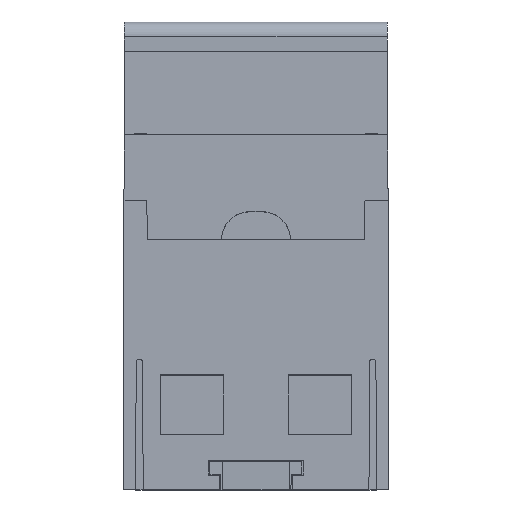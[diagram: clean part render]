
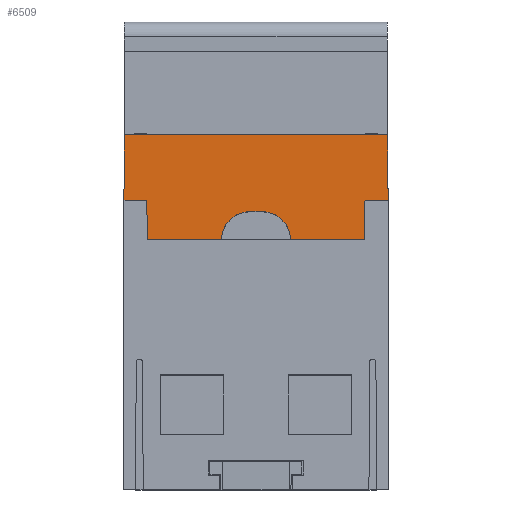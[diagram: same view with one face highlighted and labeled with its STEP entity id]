
A CAD part, front view. The second image highlights one B-rep face of the part: STEP entity #6509.
In plain terms, the highlighted planar face has unit normal (0, -1, 0.003).
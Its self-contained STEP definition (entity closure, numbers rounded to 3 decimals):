
#2090=CARTESIAN_POINT('',(22.595,3.296,33.704));
#2091=CARTESIAN_POINT('',(22.562,3.298,34.337));
#2092=CARTESIAN_POINT('',(22.245,3.301,35.336));
#2093=CARTESIAN_POINT('',(21.409,3.305,36.456));
#2094=CARTESIAN_POINT('',(20.248,3.307,37.234));
#2095=CARTESIAN_POINT('',(19.233,3.308,37.5));
#2096=CARTESIAN_POINT('',(18.6,3.308,37.5));
#2108=DIRECTION('',(-0.005,-0.003,-1.));
#2109=VECTOR('',#2108,5.298);
#2110=CARTESIAN_POINT('',(32.573,3.313,39.));
#2111=LINE('',#2110,#2109);
#2115=DIRECTION('',(-1.,0.,0.));
#2116=VECTOR('',#2115,9.951);
#2117=CARTESIAN_POINT('',(32.545,3.296,33.702));
#2118=LINE('',#2117,#2116);
#2122=DIRECTION('',(-1.,0.,0.));
#2123=VECTOR('',#2122,9.96);
#2124=CARTESIAN_POINT('',(13.205,3.296,33.701));
#2125=LINE('',#2124,#2123);
#2129=DIRECTION('',(-0.006,0.003,1.));
#2130=VECTOR('',#2129,5.298);
#2131=CARTESIAN_POINT('',(3.245,3.296,33.702));
#2132=LINE('',#2131,#2130);
#2136=DIRECTION('',(-0.003,-0.003,-1.));
#2137=VECTOR('',#2136,8.8);
#2138=CARTESIAN_POINT('',(0.154,3.34,47.8));
#2139=LINE('',#2138,#2137);
#2143=DIRECTION('',(1.,0.,0.));
#2144=VECTOR('',#2143,35.492);
#2145=CARTESIAN_POINT('',(0.154,3.34,47.8));
#2146=LINE('',#2145,#2144);
#2150=DIRECTION('',(0.003,-0.003,-1.));
#2151=VECTOR('',#2150,8.8);
#2152=CARTESIAN_POINT('',(35.646,3.34,47.8));
#2153=LINE('',#2152,#2151);
#2171=DIRECTION('',(1.,0.,0.));
#2172=VECTOR('',#2171,3.09);
#2173=CARTESIAN_POINT('',(0.126,3.313,39.));
#2174=LINE('',#2173,#2172);
#2185=DIRECTION('',(1.,0.,0.));
#2186=VECTOR('',#2185,3.101);
#2187=CARTESIAN_POINT('',(32.573,3.313,39.));
#2188=LINE('',#2187,#2186);
#2227=CARTESIAN_POINT('',(17.2,3.308,37.5));
#2228=CARTESIAN_POINT('',(16.567,3.308,37.5));
#2229=CARTESIAN_POINT('',(15.552,3.307,37.234));
#2230=CARTESIAN_POINT('',(14.391,3.305,36.456));
#2231=CARTESIAN_POINT('',(13.555,3.301,35.336));
#2232=CARTESIAN_POINT('',(13.238,3.298,34.337));
#2233=CARTESIAN_POINT('',(13.205,3.296,33.704));
#2245=DIRECTION('',(-1.,0.,0.));
#2246=VECTOR('',#2245,1.4);
#2247=CARTESIAN_POINT('',(18.6,3.308,37.5));
#2248=LINE('',#2247,#2246);
#4521=CARTESIAN_POINT('',(0.154,3.34,47.8));
#4523=VERTEX_POINT('',#4521);
#4566=CARTESIAN_POINT('',(35.646,3.34,47.8));
#4567=CARTESIAN_POINT('',(35.674,3.313,39.));
#4568=VERTEX_POINT('',#4566);
#4569=VERTEX_POINT('',#4567);
#4570=CARTESIAN_POINT('',(0.126,3.313,39.));
#4571=VERTEX_POINT('',#4570);
#4763=CARTESIAN_POINT('',(32.545,3.296,33.702));
#4764=CARTESIAN_POINT('',(22.595,3.296,33.701));
#4765=VERTEX_POINT('',#4763);
#4766=VERTEX_POINT('',#4764);
#4767=CARTESIAN_POINT('',(13.205,3.296,33.701));
#4768=CARTESIAN_POINT('',(3.245,3.296,33.702));
#4769=VERTEX_POINT('',#4767);
#4770=VERTEX_POINT('',#4768);
#4775=CARTESIAN_POINT('',(3.215,3.313,39.));
#4776=VERTEX_POINT('',#4775);
#4777=CARTESIAN_POINT('',(32.573,3.313,39.));
#4778=VERTEX_POINT('',#4777);
#4783=VERTEX_POINT('',#2096);
#4784=CARTESIAN_POINT('',(17.2,3.308,37.5));
#4785=VERTEX_POINT('',#4784);
#6482=CARTESIAN_POINT('',(0.,3.34,47.8));
#6483=DIRECTION('',(0.,-1.,0.003));
#6484=DIRECTION('',(0.,-0.003,-1.));
#6485=AXIS2_PLACEMENT_3D('',#6482,#6483,#6484);
#6486=PLANE('',#6485);
#6488=ORIENTED_EDGE('',*,*,#6487,.F.);
#6490=ORIENTED_EDGE('',*,*,#6489,.T.);
#6492=ORIENTED_EDGE('',*,*,#6491,.T.);
#6493=ORIENTED_EDGE('',*,*,#6472,.T.);
#6495=ORIENTED_EDGE('',*,*,#6494,.T.);
#6497=ORIENTED_EDGE('',*,*,#6496,.T.);
#6499=ORIENTED_EDGE('',*,*,#6498,.T.);
#6501=ORIENTED_EDGE('',*,*,#6500,.T.);
#6503=ORIENTED_EDGE('',*,*,#6502,.F.);
#6504=ORIENTED_EDGE('',*,*,#6182,.F.);
#6505=ORIENTED_EDGE('',*,*,#5266,.T.);
#6506=ORIENTED_EDGE('',*,*,#5326,.T.);
#6507=EDGE_LOOP('',(#6488,#6490,#6492,#6493,#6495,#6497,#6499,#6501,#6503,#6504,
#6505,#6506));
#6508=FACE_OUTER_BOUND('',#6507,.F.);
#2097=B_SPLINE_CURVE_WITH_KNOTS('',3,(#2090,#2091,#2092,#2093,#2094,#2095,
#2096),.UNSPECIFIED.,.F.,.F.,(4,1,1,1,4),(0.,0.25,0.5,0.75,1.),
.UNSPECIFIED.);
#2234=B_SPLINE_CURVE_WITH_KNOTS('',3,(#2227,#2228,#2229,#2230,#2231,#2232,
#2233),.UNSPECIFIED.,.F.,.F.,(4,1,1,1,4),(0.,0.25,0.5,0.75,1.),
.UNSPECIFIED.);
#5266=EDGE_CURVE('',#4523,#4568,#2146,.T.);
#5326=EDGE_CURVE('',#4568,#4569,#2153,.T.);
#6182=EDGE_CURVE('',#4523,#4571,#2139,.T.);
#6472=EDGE_CURVE('',#4766,#4783,#2097,.T.);
#6487=EDGE_CURVE('',#4778,#4569,#2188,.T.);
#6489=EDGE_CURVE('',#4778,#4765,#2111,.T.);
#6491=EDGE_CURVE('',#4765,#4766,#2118,.T.);
#6494=EDGE_CURVE('',#4783,#4785,#2248,.T.);
#6496=EDGE_CURVE('',#4785,#4769,#2234,.T.);
#6498=EDGE_CURVE('',#4769,#4770,#2125,.T.);
#6500=EDGE_CURVE('',#4770,#4776,#2132,.T.);
#6502=EDGE_CURVE('',#4571,#4776,#2174,.T.);
#6509=ADVANCED_FACE('',(#6508),#6486,.T.);
